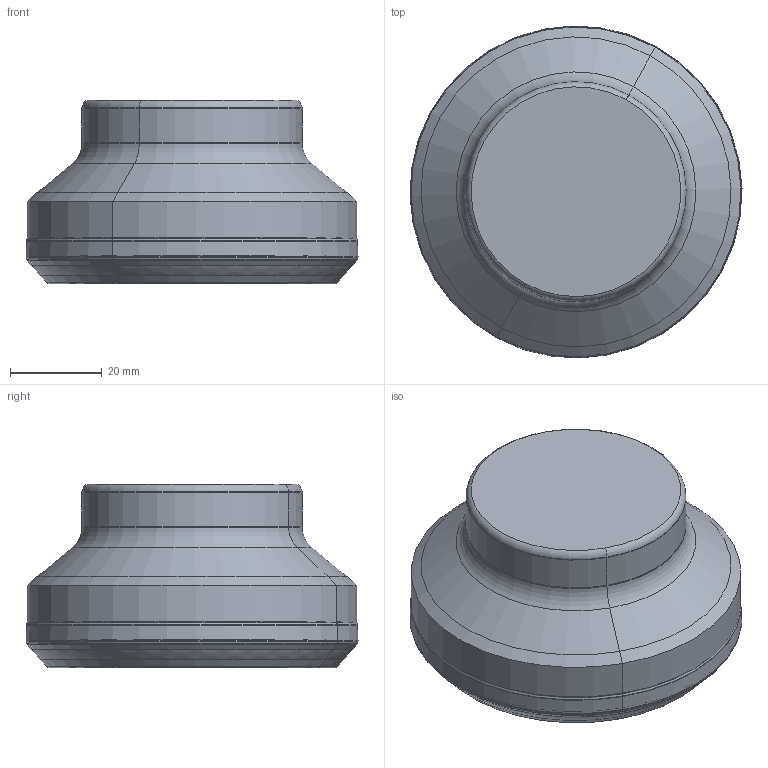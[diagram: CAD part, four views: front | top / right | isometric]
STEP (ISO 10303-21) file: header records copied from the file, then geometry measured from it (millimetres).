
FILE_DESCRIPTION(('CATIA V5 STEP Exchange'),'2;1');
FILE_NAME('I:\isr\design\admin8\users\hala_s\3106524NN.stp','2012-10-31T13:37:23+00:00',('none'),('none'),'CATIA Version 5 Release 21 SP 3 (IN-10)','CATIA V5 STEP AP214','none');
FILE_SCHEMA(('AUTOMOTIVE_DESIGN { 1 0 10303 214 1 1 1 1 }'));
Length unit declared in the file: millimetre
Products named in the file (1): 61057041_0 Assembly IQ845 FSY D063-05-22-R07
Bounding box: 72.38 x 72.38 x 40 mm (x, y, z)
Volume: 132065.7 mm3; surface area: 22351.3 mm2
Topology: 2 solids, 2 shells, 217 faces, 432 edges, 218 vertices
Faces by surface type: cone 182, torus 26, cylinder 6, plane 3
Entity records: 4744 total; most frequent: ORIENTED_EDGE 864, CARTESIAN_POINT 795, DIRECTION 656, EDGE_CURVE 432, AXIS2_PLACEMENT_3D 356, CIRCLE 242, EDGE_LOOP 218, VERTEX_POINT 218
